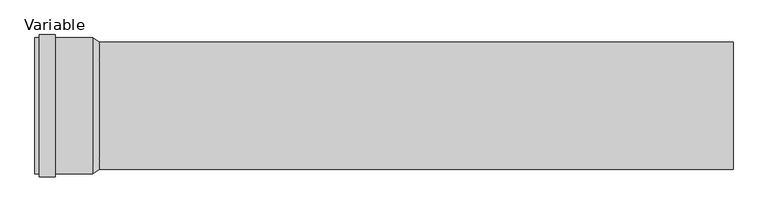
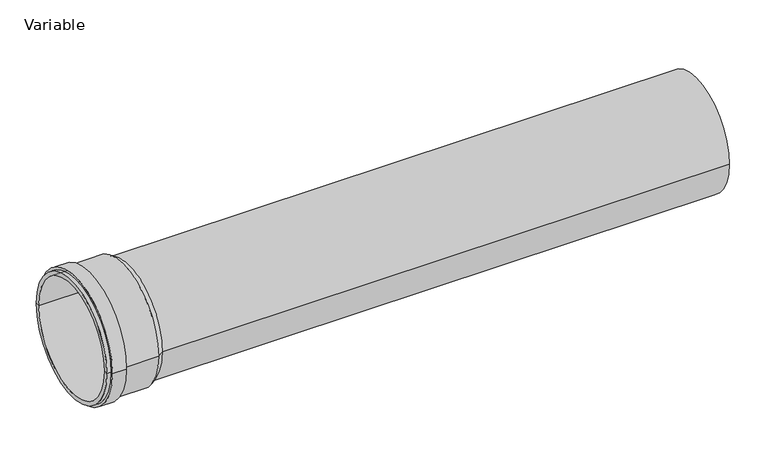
"""IFC4 building model written with IfcOpenShell, lengths in millimetres: pipe fitting geometry, AliaxisFR_Friaphon_LongCoupling_FR : Variable."""

from ifc_helpers import new_model, si_unit, point, frame, origin, origin_2d, place, context, project, spatial, polyline, circle_curve, trimmed, segment, composite_curve, outline, extrude, source, transform, mapped, element, save
from ifc_brep_helpers import plane_surface, cylinder_surface, revolved_surface, advanced_brep


def variable_5c5cefdd(model_context):
    return source(origin(), model_context, "Body", "SolidModel", [
        advanced_brep(
        [(-594.0, 107.0, 0.0), (-594.0, -107.0, 0.0), (-594.0, -100.0, 0.0), (-594.0, 100.0, 0.0), (-562.5, 111.5, 0.0), (-562.5, -111.5, 0.0), (-587.0, -111.5, 0.0), (-587.0, 111.5, 0.0), (-562.5, 107.0, 0.0), (-562.5, -107.0, 0.0), (-503.5, 107.0, 0.0), (-503.5, -107.0, 0.0), (-493.0, -100.0, 0.0), (-493.0, 100.0, 0.0), (-587.0, 107.0, 0.0), (-587.0, -107.0, 0.0)],
        [
            (0, 1, circle_curve(frame((-594.0, 0.0, 0.0), z_axis=(-1.0, 0.0, 0.0), x_axis=(0.0, -1.0, 0.0)), 107.0)),
            (1, 2),
            (2, 3, circle_curve(frame((-594.0, 0.0, 0.0), z_axis=(1.0, 0.0, 0.0), x_axis=(0.0, -1.0, 0.0)), 100.0)),
            (3, 0),
            (1, 0, circle_curve(frame((-594.0, 0.0, 0.0), z_axis=(-1.0, 0.0, 0.0), x_axis=(0.0, -1.0, 0.0)), 107.0)),
            (3, 2, circle_curve(frame((-594.0, 0.0, 0.0), z_axis=(1.0, 0.0, 0.0), x_axis=(0.0, -1.0, 0.0)), 100.0)),
            (4, 5, circle_curve(frame((-562.5, 0.0, 0.0), z_axis=(-1.0, 0.0, 0.0), x_axis=(0.0, -1.0, 0.0)), 111.5)),
            (5, 6),
            (6, 7, circle_curve(frame((-587.0, 0.0, 0.0), z_axis=(1.0, 0.0, 0.0), x_axis=(0.0, -1.0, 0.0)), 111.5)),
            (7, 4),
            (5, 4, circle_curve(frame((-562.5, 0.0, 0.0), z_axis=(-1.0, 0.0, 0.0), x_axis=(0.0, -1.0, 0.0)), 111.5)),
            (7, 6, circle_curve(frame((-587.0, 0.0, 0.0), z_axis=(1.0, 0.0, 0.0), x_axis=(0.0, -1.0, 0.0)), 111.5)),
            (8, 9, circle_curve(frame((-562.5, 0.0, 0.0), z_axis=(-1.0, 0.0, 0.0), x_axis=(0.0, -1.0, 0.0)), 107.0)),
            (9, 5),
            (4, 8),
            (9, 8, circle_curve(frame((-562.5, 0.0, 0.0), z_axis=(-1.0, 0.0, 0.0), x_axis=(0.0, -1.0, 0.0)), 107.0)),
            (10, 11, circle_curve(frame((-503.5, 0.0, 0.0), z_axis=(-1.0, 0.0, 0.0), x_axis=(0.0, -1.0, 0.0)), 107.0)),
            (11, 9),
            (8, 10),
            (11, 10, circle_curve(frame((-503.5, 0.0, 0.0), z_axis=(-1.0, 0.0, 0.0), x_axis=(0.0, -1.0, 0.0)), 107.0)),
            (2, 12),
            (12, 13, circle_curve(frame((-493.0, 0.0, 0.0), z_axis=(1.0, 0.0, 0.0), x_axis=(0.0, -1.0, 0.0)), 100.0)),
            (13, 3),
            (13, 12, circle_curve(frame((-493.0, 0.0, 0.0), z_axis=(1.0, 0.0, 0.0), x_axis=(0.0, -1.0, 0.0)), 100.0)),
            (12, 11),
            (10, 13),
            (14, 15, circle_curve(frame((-587.0, 0.0, 0.0), z_axis=(-1.0, 0.0, 0.0), x_axis=(0.0, -1.0, 0.0)), 107.0)),
            (15, 1),
            (0, 14),
            (15, 14, circle_curve(frame((-587.0, 0.0, 0.0), z_axis=(-1.0, 0.0, 0.0), x_axis=(0.0, -1.0, 0.0)), 107.0)),
            (6, 15),
            (14, 7),
        ],
        [
            plane_surface(frame((-594.0, 0.0, 0.0), z_axis=(-1.0, 0.0, 0.0), x_axis=(0.0, -1.0, 0.0))),
            cylinder_surface(frame((-493.0, 0.0, 0.0), z_axis=(1.0, 0.0, 0.0), x_axis=(0.0, -1.0, 0.0)), 111.5),
            plane_surface(frame((-562.5, 0.0, 0.0), z_axis=(1.0, 0.0, 0.0), x_axis=(0.0, -1.0, 0.0))),
            cylinder_surface(frame((-493.0, 0.0, 0.0), z_axis=(1.0, 0.0, 0.0), x_axis=(0.0, -1.0, 0.0)), 107.0),
            revolved_surface(polyline([(-493.0, -100.0, 0.0), (-594.0, -100.0, 0.0)]), (-493.0, 0.0, 0.0), (1.0, 0.0, 0.0)),
            revolved_surface(polyline([(-503.5, -107.0, 0.0), (-493.0, -100.0, 0.0)]), (-493.0, 0.0, 0.0), (1.0, 0.0, 0.0)),
            plane_surface(frame((-587.0, 0.0, 0.0), z_axis=(-1.0, 0.0, 0.0), x_axis=(0.0, -1.0, 0.0))),
        ],
        [
            (0, [[1, 2, 3, 4]]),
            (0, [[5, -4, 6, -2]]),
            (1, [[7, 8, 9, 10]]),
            (1, [[11, -10, 12, -8]]),
            (2, [[13, 14, -7, 15]]),
            (2, [[16, -15, -11, -14]]),
            (3, [[17, 18, -13, 19]]),
            (3, [[20, -19, -16, -18]]),
            (4, [[-3, 21, 22, 23]]),
            (4, [[-6, -23, 24, -21]]),
            (5, [[-22, 25, -17, 26]]),
            (5, [[-24, -26, -20, -25]]),
            (3, [[27, 28, -1, 29]]),
            (3, [[30, -29, -5, -28]]),
            (6, [[-9, 31, -27, 32]]),
            (6, [[-12, -32, -30, -31]]),
        ],
    ),
        extrude(outline(composite_curve([segment(trimmed(circle_curve(origin_2d(), 100.0), [point((-100.0, 0.0))], [point((100.0, 0.0))], False, "CARTESIAN"), True, "CONTINUOUS"), segment(trimmed(circle_curve(origin_2d(), 100.0), [point((100.0, 0.0))], [point((-100.0, 0.0))], False, "CARTESIAN"), True, "CONTINUOUS")], self_intersect=False)), frame((-500.0, 0.0, 0.0), z_axis=(1.0, 0.0, 0.0), x_axis=(0.0, 1.0, 0.0)), (0.0, 0.0, 1.0), 1000.0),
    ])


if __name__ == "__main__":
    model = new_model("IFC4")
    model_context = context("Model", 3, world=origin())
    ifc_project = project(units=[si_unit("LENGTHUNIT", "METRE", prefix="MILLI")], contexts=[model_context])
    site = spatial("IfcSite", under=ifc_project)
    building = spatial("IfcBuilding", under=site)
    placement = place(None, origin())
    variable_shape = variable_5c5cefdd(model_context)
    element("IfcPipeFitting", 1, ObjectType="AliaxisFR_Friaphon_LongCoupling_FR : Variable", at=placement, inside=building, context=model_context, shape_type="MappedRepresentation", body=[
        mapped(variable_shape, transform((0.0, 0.0, 0.0), x_axis=(1.0, 0.0, 0.0), y_axis=(0.0, 1.0, 0.0), z_axis=(0.0, 0.0, 1.0))),
    ])
    save(model, "model.ifc")
